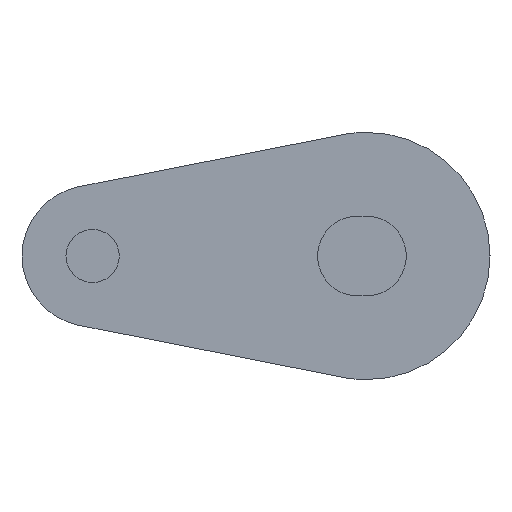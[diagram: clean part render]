
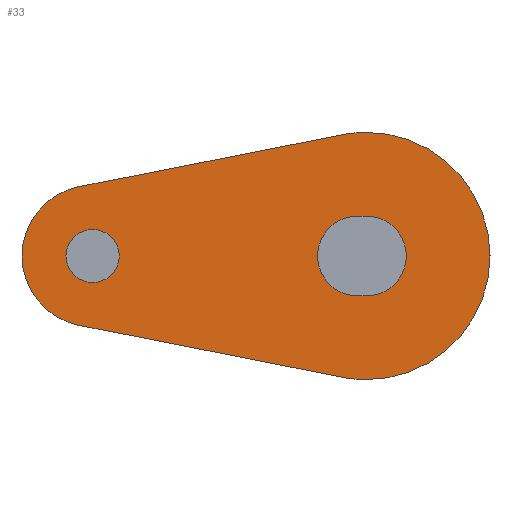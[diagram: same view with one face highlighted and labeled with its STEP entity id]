
A CAD part, left-side view. The second image highlights one B-rep face of the part: STEP entity #33.
In plain terms, the highlighted planar face has unit normal (-1, 0, 0).
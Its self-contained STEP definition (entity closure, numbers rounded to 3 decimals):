
#33 = ADVANCED_FACE ( 'NONE', ( #976, #972, #969 ), #465, .T. ) ;
#52 = CIRCLE ( 'NONE', #612, 2.26 ) ;
#64 = CIRCLE ( 'NONE', #701, 1.51 ) ;
#71 = CIRCLE ( 'NONE', #629, 2.26 ) ;
#72 = VECTOR ( 'NONE', #360, 1000. ) ;
#75 = LINE ( 'NONE', #365, #85 ) ;
#79 = LINE ( 'NONE', #361, #72 ) ;
#83 = VECTOR ( 'NONE', #362, 1000. ) ;
#84 = LINE ( 'NONE', #363, #83 ) ;
#85 = VECTOR ( 'NONE', #356, 1000. ) ;
#87 = EDGE_CURVE ( 'NONE', #344, #564, #957, .T. ) ;
#90 = EDGE_CURVE ( 'NONE', #585, #583, #945, .T. ) ;
#92 = EDGE_CURVE ( 'NONE', #583, #542, #941, .T. ) ;
#94 = EDGE_CURVE ( 'NONE', #564, #585, #938, .T. ) ;
#97 = EDGE_CURVE ( 'NONE', #574, #584, #64, .T. ) ;
#99 = EDGE_CURVE ( 'NONE', #343, #570, #52, .T. ) ;
#101 = EDGE_CURVE ( 'NONE', #570, #533, #84, .T. ) ;
#102 = EDGE_CURVE ( 'NONE', #542, #537, #79, .T. ) ;
#104 = EDGE_CURVE ( 'NONE', #538, #343, #75, .T. ) ;
#108 = EDGE_CURVE ( 'NONE', #533, #538, #71, .T. ) ;
#112 = AXIS2_PLACEMENT_3D ( 'NONE', #421, #419, #418 ) ;
#128 = EDGE_CURVE ( 'NONE', #584, #574, #719, .T. ) ;
#134 = EDGE_CURVE ( 'NONE', #537, #344, #1032, .T. ) ;
#158 = EDGE_LOOP ( 'NONE', ( #247, #278, #279, #280 ) ) ;
#159 = EDGE_LOOP ( 'NONE', ( #331, #216 ) ) ;
#160 = EDGE_LOOP ( 'NONE', ( #215, #275, #288, #287, #283, #315 ) ) ;
#215 = ORIENTED_EDGE ( 'NONE', *, *, #134, .F. ) ;
#216 = ORIENTED_EDGE ( 'NONE', *, *, #97, .T. ) ;
#247 = ORIENTED_EDGE ( 'NONE', *, *, #108, .T. ) ;
#275 = ORIENTED_EDGE ( 'NONE', *, *, #102, .F. ) ;
#278 = ORIENTED_EDGE ( 'NONE', *, *, #104, .T. ) ;
#279 = ORIENTED_EDGE ( 'NONE', *, *, #99, .T. ) ;
#280 = ORIENTED_EDGE ( 'NONE', *, *, #101, .T. ) ;
#283 = ORIENTED_EDGE ( 'NONE', *, *, #94, .F. ) ;
#287 = ORIENTED_EDGE ( 'NONE', *, *, #90, .F. ) ;
#288 = ORIENTED_EDGE ( 'NONE', *, *, #92, .F. ) ;
#315 = ORIENTED_EDGE ( 'NONE', *, *, #87, .F. ) ;
#331 = ORIENTED_EDGE ( 'NONE', *, *, #128, .T. ) ;
#343 = VERTEX_POINT ( 'NONE', #901 ) ;
#344 = VERTEX_POINT ( 'NONE', #876 ) ;
#345 = DIRECTION ( 'NONE',  ( 0., 0., -1. ) ) ;
#346 = DIRECTION ( 'NONE',  ( 1., 0., 0. ) ) ;
#348 = CARTESIAN_POINT ( 'NONE',  ( -532.5, 0.5, 0. ) ) ;
#356 = DIRECTION ( 'NONE',  ( 0., -1., 0. ) ) ;
#360 = DIRECTION ( 'NONE',  ( 0., 0.981, 0.194 ) ) ;
#361 = CARTESIAN_POINT ( 'NONE',  ( -532.5, 1.355, -6.868 ) ) ;
#362 = DIRECTION ( 'NONE',  ( 0., 1., 0. ) ) ;
#363 = CARTESIAN_POINT ( 'NONE',  ( -532.5, 0.5, -2.26 ) ) ;
#365 = CARTESIAN_POINT ( 'NONE',  ( -532.5, 0.5, 2.26 ) ) ;
#366 = DIRECTION ( 'NONE',  ( 0., 0., -1. ) ) ;
#367 = DIRECTION ( 'NONE',  ( 1., 0., 0. ) ) ;
#368 = CARTESIAN_POINT ( 'NONE',  ( -532.5, 0., 0. ) ) ;
#371 = DIRECTION ( 'NONE',  ( 0., 0., -1. ) ) ;
#398 = DIRECTION ( 'NONE',  ( 1., 0., 0. ) ) ;
#399 = CARTESIAN_POINT ( 'NONE',  ( -532.5, 15.5, 0. ) ) ;
#405 = DIRECTION ( 'NONE',  ( 0., 0., -1. ) ) ;
#406 = DIRECTION ( 'NONE',  ( 1., 0., 0. ) ) ;
#409 = CARTESIAN_POINT ( 'NONE',  ( -532.5, 0., 0. ) ) ;
#410 = DIRECTION ( 'NONE',  ( 0., 0., -1. ) ) ;
#411 = DIRECTION ( 'NONE',  ( 1., 0., 0. ) ) ;
#418 = DIRECTION ( 'NONE',  ( 0., 0., -1. ) ) ;
#419 = DIRECTION ( 'NONE',  ( 1., 0., 0. ) ) ;
#421 = CARTESIAN_POINT ( 'NONE',  ( -532.5, 0., 0. ) ) ;
#426 = DIRECTION ( 'NONE',  ( 0., -0.981, 0.194 ) ) ;
#427 = CARTESIAN_POINT ( 'NONE',  ( -532.5, 16.274, 3.924 ) ) ;
#453 = CARTESIAN_POINT ( 'NONE',  ( -532.5, 0., 0. ) ) ;
#455 = DIRECTION ( 'NONE',  ( 0., 0., -1. ) ) ;
#460 = DIRECTION ( 'NONE',  ( -1., 0., 0. ) ) ;
#461 = CARTESIAN_POINT ( 'NONE',  ( -532.5, 15.5, 0. ) ) ;
#465 = PLANE ( 'NONE',  #635 ) ;
#533 = VERTEX_POINT ( 'NONE', #875 ) ;
#537 = VERTEX_POINT ( 'NONE', #884 ) ;
#538 = VERTEX_POINT ( 'NONE', #871 ) ;
#542 = VERTEX_POINT ( 'NONE', #867 ) ;
#564 = VERTEX_POINT ( 'NONE', #852 ) ;
#570 = VERTEX_POINT ( 'NONE', #841 ) ;
#574 = VERTEX_POINT ( 'NONE', #838 ) ;
#583 = VERTEX_POINT ( 'NONE', #831 ) ;
#584 = VERTEX_POINT ( 'NONE', #830 ) ;
#585 = VERTEX_POINT ( 'NONE', #829 ) ;
#612 = AXIS2_PLACEMENT_3D ( 'NONE', #368, #367, #366 ) ;
#627 = AXIS2_PLACEMENT_3D ( 'NONE', #453, #411, #410 ) ;
#629 = AXIS2_PLACEMENT_3D ( 'NONE', #348, #346, #345 ) ;
#635 = AXIS2_PLACEMENT_3D ( 'NONE', #461, #460, #455 ) ;
#649 = AXIS2_PLACEMENT_3D ( 'NONE', #409, #406, #405 ) ;
#652 = AXIS2_PLACEMENT_3D ( 'NONE', #810, #776, #772 ) ;
#678 = AXIS2_PLACEMENT_3D ( 'NONE', #933, #849, #848 ) ;
#701 = AXIS2_PLACEMENT_3D ( 'NONE', #399, #398, #371 ) ;
#719 = CIRCLE ( 'NONE', #678, 1.51 ) ;
#772 = DIRECTION ( 'NONE',  ( 0., 0., -1. ) ) ;
#776 = DIRECTION ( 'NONE',  ( 1., 0., 0. ) ) ;
#810 = CARTESIAN_POINT ( 'NONE',  ( -532.5, 15.5, 0. ) ) ;
#829 = CARTESIAN_POINT ( 'NONE',  ( -532.5, 0., 7. ) ) ;
#830 = CARTESIAN_POINT ( 'NONE',  ( -532.5, 15.5, -1.51 ) ) ;
#831 = CARTESIAN_POINT ( 'NONE',  ( -532.5, 0., -7. ) ) ;
#838 = CARTESIAN_POINT ( 'NONE',  ( -532.5, 15.5, 1.51 ) ) ;
#841 = CARTESIAN_POINT ( 'NONE',  ( -532.5, 0., -2.26 ) ) ;
#848 = DIRECTION ( 'NONE',  ( 0., 0., -1. ) ) ;
#849 = DIRECTION ( 'NONE',  ( 1., 0., 0. ) ) ;
#852 = CARTESIAN_POINT ( 'NONE',  ( -532.5, 1.355, 6.868 ) ) ;
#867 = CARTESIAN_POINT ( 'NONE',  ( -532.5, 1.355, -6.868 ) ) ;
#871 = CARTESIAN_POINT ( 'NONE',  ( -532.5, 0.5, 2.26 ) ) ;
#875 = CARTESIAN_POINT ( 'NONE',  ( -532.5, 0.5, -2.26 ) ) ;
#876 = CARTESIAN_POINT ( 'NONE',  ( -532.5, 16.274, 3.924 ) ) ;
#884 = CARTESIAN_POINT ( 'NONE',  ( -532.5, 16.274, -3.924 ) ) ;
#901 = CARTESIAN_POINT ( 'NONE',  ( -532.5, 0., 2.26 ) ) ;
#933 = CARTESIAN_POINT ( 'NONE',  ( -532.5, 15.5, 0. ) ) ;
#938 = CIRCLE ( 'NONE', #649, 7. ) ;
#941 = CIRCLE ( 'NONE', #627, 7. ) ;
#945 = CIRCLE ( 'NONE', #112, 7. ) ;
#950 = VECTOR ( 'NONE', #426, 1000. ) ;
#957 = LINE ( 'NONE', #427, #950 ) ;
#969 = FACE_OUTER_BOUND ( 'NONE', #160, .T. ) ;
#972 = FACE_BOUND ( 'NONE', #159, .T. ) ;
#976 = FACE_BOUND ( 'NONE', #158, .T. ) ;
#1032 = CIRCLE ( 'NONE', #652, 4. ) ;
